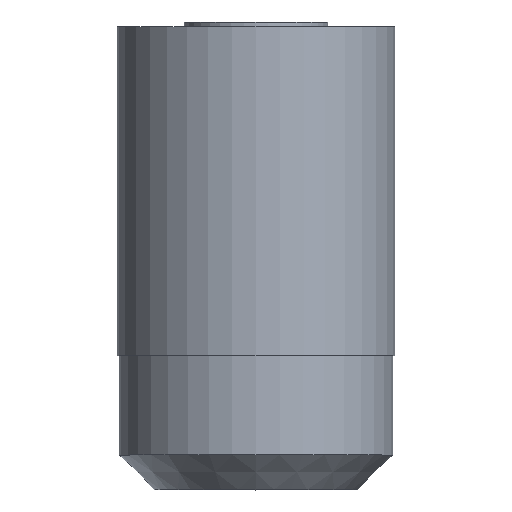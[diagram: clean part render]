
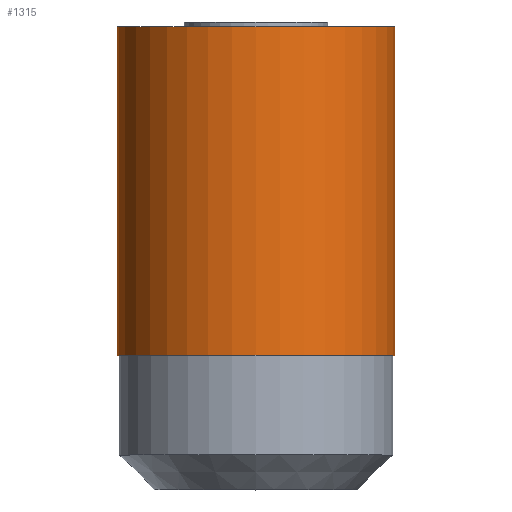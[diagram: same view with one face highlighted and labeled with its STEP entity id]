
A CAD part, top view. The second image highlights one B-rep face of the part: STEP entity #1315.
In plain terms, the highlighted cylindrical face has radius 6 mm (diameter 12 mm), a full revolution.
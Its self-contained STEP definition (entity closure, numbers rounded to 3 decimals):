
#20 = DIRECTION ( 'NONE',  ( 0., -1., 0. ) ) ;
#203 = CARTESIAN_POINT ( 'NONE',  ( 0., 20., 0. ) ) ;
#336 = DIRECTION ( 'NONE',  ( 0., 0., -1. ) ) ;
#787 = EDGE_CURVE ( 'NONE', #1965, #1965, #2316, .T. ) ;
#903 = DIRECTION ( 'NONE',  ( 0., -1., 0. ) ) ;
#1297 = AXIS2_PLACEMENT_3D ( 'NONE', #203, #3158, #1958 ) ;
#1315 = ADVANCED_FACE ( 'NONE', ( #2193, #1900 ), #2037, .T. ) ;
#1330 = AXIS2_PLACEMENT_3D ( 'NONE', #2441, #20, #2724 ) ;
#1496 = EDGE_LOOP ( 'NONE', ( #1808 ) ) ;
#1528 = CARTESIAN_POINT ( 'NONE',  ( 0., 0., 0. ) ) ;
#1567 = VERTEX_POINT ( 'NONE', #3085 ) ;
#1808 = ORIENTED_EDGE ( 'NONE', *, *, #3685, .F. ) ;
#1840 = ORIENTED_EDGE ( 'NONE', *, *, #787, .T. ) ;
#1900 = FACE_OUTER_BOUND ( 'NONE', #3734, .T. ) ;
#1958 = DIRECTION ( 'NONE',  ( 0., 0., -1. ) ) ;
#1965 = VERTEX_POINT ( 'NONE', #3369 ) ;
#2037 = CYLINDRICAL_SURFACE ( 'NONE', #3755, 6. ) ;
#2193 = FACE_OUTER_BOUND ( 'NONE', #1496, .T. ) ;
#2316 = CIRCLE ( 'NONE', #1297, 6. ) ;
#2441 = CARTESIAN_POINT ( 'NONE',  ( 0., 5.8, 0. ) ) ;
#2724 = DIRECTION ( 'NONE',  ( 0., 0., -1. ) ) ;
#2817 = CIRCLE ( 'NONE', #1330, 6. ) ;
#3085 = CARTESIAN_POINT ( 'NONE',  ( 0., 5.8, -6. ) ) ;
#3158 = DIRECTION ( 'NONE',  ( 0., -1., 0. ) ) ;
#3369 = CARTESIAN_POINT ( 'NONE',  ( 0., 20., -6. ) ) ;
#3685 = EDGE_CURVE ( 'NONE', #1567, #1567, #2817, .T. ) ;
#3734 = EDGE_LOOP ( 'NONE', ( #1840 ) ) ;
#3755 = AXIS2_PLACEMENT_3D ( 'NONE', #1528, #903, #336 ) ;
